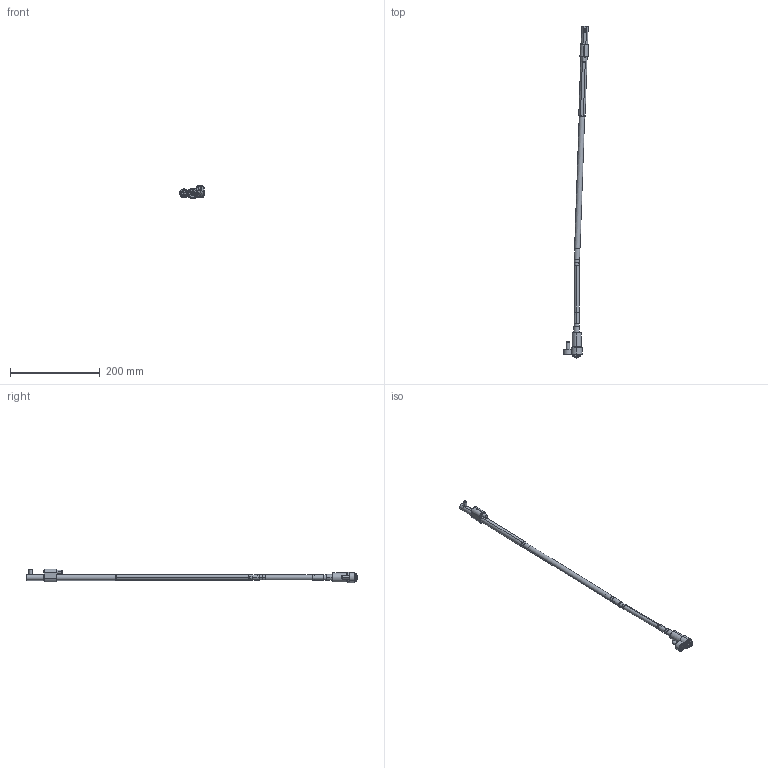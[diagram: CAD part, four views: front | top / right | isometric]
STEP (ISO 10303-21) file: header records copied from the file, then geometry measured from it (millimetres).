
FILE_DESCRIPTION (( 'STEP AP214' ), '1' );
FILE_NAME ('WL120100-INJ 2°.STEP', '2021-03-19T15:35:22', ( '' ), ( '' ), 'SwSTEP 2.0', 'SolidWorks 2019', '' );
FILE_SCHEMA (( 'AUTOMOTIVE_DESIGN' ));
Length unit declared in the file: millimetre
Products named in the file (17): 9DR2808-TOR; Web-WL12-A8; WL120100-D; Web-WL12-A2; WL120100-INJ 2°; 3IMAN5X3-150_con sellador; Web-WL12-A1; Web-WL12-A3; 8WL12EJEP; Web-WL12-XX_OFF-WL120100-2; 1DIN912820_DIN 912 M8 x 20 --- 20C; Web-WL12-F00.SLDPRT; Web-WL12-F01; WL120100-B1; WL120100-B; WL120100-E; 1DIN912645_DIN 912 M6 x 45 --- 45C
Assembly tree (16 placements, depth 3):
  WL120100-INJ 2°
    Web-WL12-A8
    Web-WL12-XX_OFF-WL120100-2
    Web-WL12-A3
    Web-WL12-A2
    Web-WL12-A1
    Web-WL12-F00.SLDPRT
      Web-WL12-F01
      1DIN912820_DIN 912 M8 x 20 --- 20C
      1DIN912645_DIN 912 M6 x 45 --- 45C
    WL120100-D
    8WL12EJEP
    WL120100-E
    9DR2808-TOR
    WL120100-B
      WL120100-B1
      3IMAN5X3-150_con sellador
Bounding box: 55.45 x 737.91 x 29.9 mm (x, y, z)
Volume: 113342.1 mm3; surface area: 49842.5 mm2
Topology: 15 solids, 15 shells, 432 faces, 906 edges, 525 vertices
Faces by surface type: plane 139, cylinder 123, cone 120, torus 50
Entity records: 13661 total; most frequent: DIRECTION 2240, CARTESIAN_POINT 2104, ORIENTED_EDGE 1788, AXIS2_PLACEMENT_3D 929, EDGE_CURVE 894, VERTEX_POINT 525, EDGE_LOOP 477, CIRCLE 476
